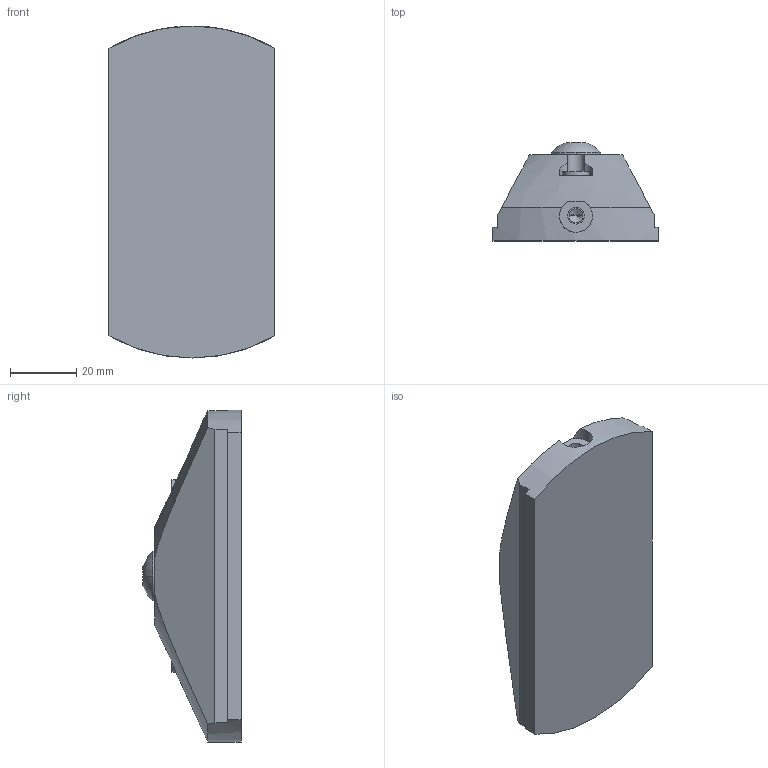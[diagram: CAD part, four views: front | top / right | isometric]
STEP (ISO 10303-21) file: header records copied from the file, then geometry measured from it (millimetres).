
FILE_DESCRIPTION (( 'STEP AP203' ), '1' );
FILE_NAME ('0004847 EZ-0075 50x100.STEP', '2022-01-19T14:22:00', ( '' ), ( '' ), 'SwSTEP 2.0', 'SolidWorks 2021', '' );
FILE_SCHEMA (( 'CONFIG_CONTROL_DESIGN' ));
Length unit declared in the file: millimetre
Products named in the file (1): 0004847 EZ-0075 50x100
Bounding box: 50 x 29.54 x 100 mm (x, y, z)
Volume: 82515.6 mm3; surface area: 15131.8 mm2
Topology: 4 solids, 4 shells, 129 faces, 312 edges, 195 vertices
Faces by surface type: plane 47, cylinder 43, cone 33, torus 4, sphere 2
Entity records: 3992 total; most frequent: CARTESIAN_POINT 917, DIRECTION 649, ORIENTED_EDGE 608, EDGE_CURVE 304, AXIS2_PLACEMENT_3D 261, VERTEX_POINT 195, EDGE_LOOP 143, CIRCLE 131
